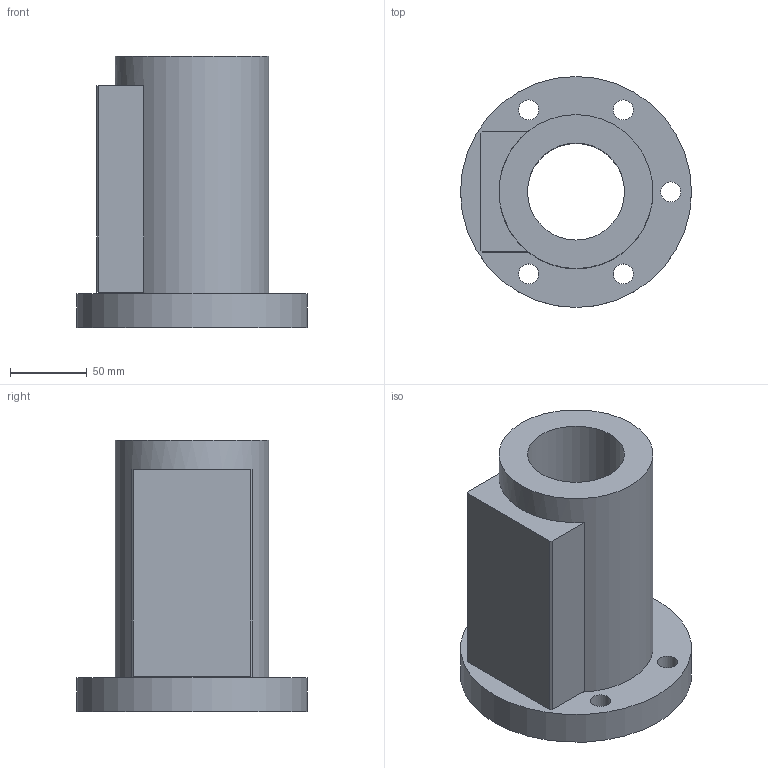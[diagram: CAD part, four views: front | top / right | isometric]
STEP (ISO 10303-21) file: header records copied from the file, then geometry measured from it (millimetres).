
FILE_DESCRIPTION(/* description */ (''),/* implementation_level */ '2;1');
FILE_NAME(/* name */ '63-20B2',/* time_stamp */ '2006-07-31T11:57:03+08:00',/* author */ (''),/* organization */ (''),/* preprocessor_version */ 'ST-DEVELOPER v9',/* originating_system */ 'UGS - NX 4.0',/* authorisation */ '');
FILE_SCHEMA (('CONFIG_CONTROL_DESIGN'));
Length unit declared in the file: millimetre
Products named in the file (1): 63-20B2
Bounding box: 150 x 150 x 176 mm (x, y, z)
Volume: 1207917.5 mm3; surface area: 136577.9 mm2
Topology: 1 solids, 1 shells, 28 faces, 61 edges, 42 vertices
Faces by surface type: plane 15, cylinder 13
Full cylindrical faces by diameter (mm): 13 x5, 20 x5, 63 x1, 100 x1, 150 x1
Entity records: 794 total; most frequent: DIRECTION 130, CARTESIAN_POINT 111, ORIENTED_EDGE 88, EDGE_LOOP 60, AXIS2_PLACEMENT_3D 57, FACE_BOUND 45, EDGE_CURVE 44, VERTEX_POINT 38
